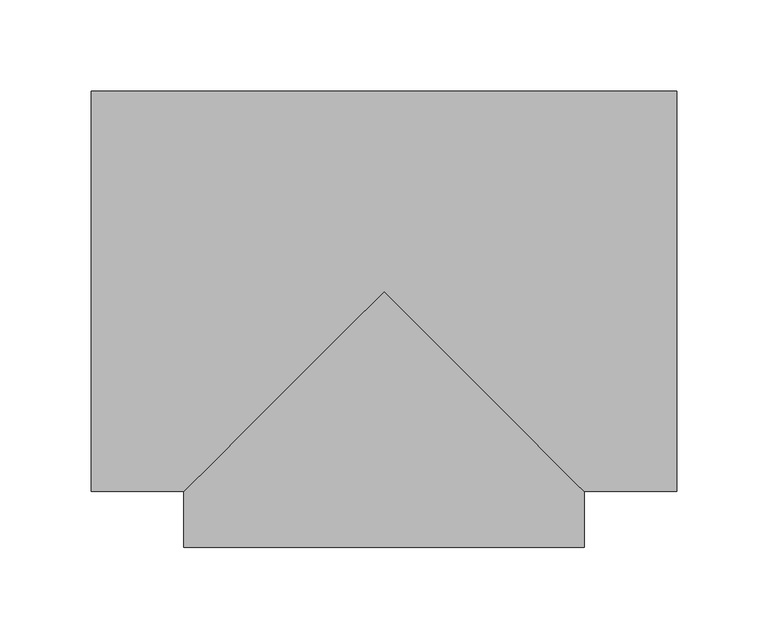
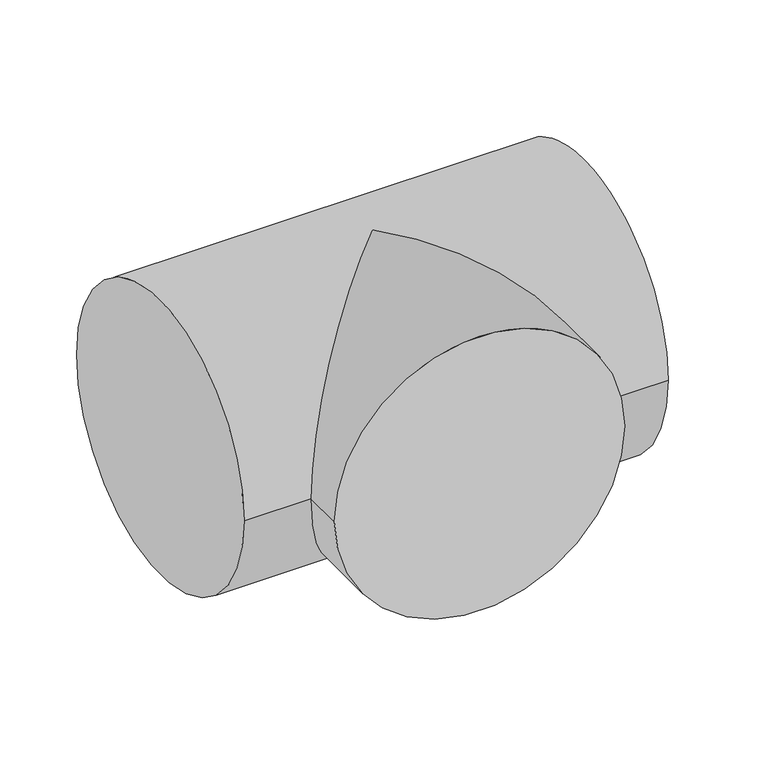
"""IFC4 building model written with IfcOpenShell, lengths in millimetres: pipe fitting geometry, ADSK_ДетальСтальнаяСварная_Тройник_ГОСТ17376-2001 : Исполнение 2."""

from ifc_helpers import new_model, si_unit, frame, origin, place, context, project, spatial, circle_curve, ellipse_curve, source, transform, mapped, element, save
from ifc_brep_helpers import plane_surface, cylinder_surface, advanced_brep


def pipe_fitting_e4bd74ec(model_context):
    return source(origin(), model_context, "Body", "AdvancedBrep", [
        advanced_brep(
        [(-160.0, -109.5, 0.0), (-160.0, 109.5, 0.0), (160.0, -109.5, 0.0), (160.0, 109.5, 0.0), (-109.5, -109.5, 0.0), (0.0, 0.0, 109.5), (109.5, -109.5, 0.0), (0.0, 0.0, -109.5), (-109.5, -140.0, 0.0), (109.5, -140.0, 0.0)],
        [
            (0, 1, circle_curve(frame((-160.0, 0.0, 0.0), z_axis=(-1.0, 0.0, 0.0), x_axis=(0.0, 1.0, 0.0)), 109.5)),
            (1, 0, circle_curve(frame((-160.0, 0.0, 0.0), z_axis=(-1.0, 0.0, 0.0), x_axis=(0.0, 1.0, 0.0)), 109.5)),
            (2, 3, circle_curve(frame((160.0, 0.0, 0.0), z_axis=(1.0, 0.0, 0.0), x_axis=(0.0, 1.0, 0.0)), 109.5)),
            (3, 2, circle_curve(frame((160.0, 0.0, 0.0), z_axis=(1.0, 0.0, 0.0), x_axis=(0.0, 1.0, 0.0)), 109.5)),
            (0, 4),
            (4, 5, ellipse_curve(frame((0.0, 0.0, 0.0), z_axis=(-0.707106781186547, 0.7071067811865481, 0.0), x_axis=(-0.707106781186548, -0.707106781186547, 0.0)), 154.8563851, 109.5)),
            (5, 6, ellipse_curve(frame((0.0, 0.0, 0.0), z_axis=(0.707106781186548, 0.7071067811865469, 0.0), x_axis=(-0.707106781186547, 0.707106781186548, 0.0)), 154.8563851, 109.5)),
            (6, 2),
            (3, 1),
            (6, 7, ellipse_curve(frame((0.0, 0.0, 0.0), z_axis=(0.707106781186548, 0.7071067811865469, 0.0), x_axis=(-0.707106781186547, 0.707106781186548, 0.0)), 154.8563851, 109.5)),
            (7, 4, ellipse_curve(frame((0.0, 0.0, 0.0), z_axis=(-0.707106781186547, 0.7071067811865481, 0.0), x_axis=(-0.707106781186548, -0.707106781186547, 0.0)), 154.8563851, 109.5)),
            (8, 9, circle_curve(frame((0.0, -140.0, 0.0), z_axis=(0.0, -1.0, 0.0), x_axis=(1.0, 0.0, 0.0)), 109.5)),
            (9, 8, circle_curve(frame((0.0, -140.0, 0.0), z_axis=(0.0, -1.0, 0.0), x_axis=(1.0, 0.0, 0.0)), 109.5)),
            (9, 6),
            (4, 8),
        ],
        [
            plane_surface(frame((-160.0, 0.0, 0.0), z_axis=(-1.0, 0.0, 0.0), x_axis=(0.0, 0.0, 1.0))),
            plane_surface(frame((160.0, 0.0, 0.0), z_axis=(1.0, 0.0, 0.0), x_axis=(0.0, 0.0, 1.0))),
            cylinder_surface(frame((-160.0, 0.0, 0.0), z_axis=(-1.0, 0.0, 0.0), x_axis=(0.0, 1.0, 0.0)), 109.5),
            plane_surface(frame((0.0, -140.0, 0.0), z_axis=(0.0, -1.0, 0.0), x_axis=(0.0, 0.0, 1.0))),
            cylinder_surface(frame((0.0, 0.0, 0.0), z_axis=(0.0, 1.0, 0.0), x_axis=(1.0, 0.0, 0.0)), 109.5),
        ],
        [
            (0, [[1, 2]]),
            (1, [[3, 4]]),
            (2, [[-1, 5, 6, 7, 8, -4, 9]]),
            (2, [[-2, -9, -3, -8, 10, 11, -5]]),
            (3, [[12, 13]]),
            (4, [[-13, 14, -7, -6, 15]]),
            (4, [[-12, -15, -11, -10, -14]]),
        ],
    ),
    ])


if __name__ == "__main__":
    model = new_model("IFC4")
    model_context = context("Model", 3, world=origin())
    ifc_project = project(units=[si_unit("LENGTHUNIT", "METRE", prefix="MILLI")], contexts=[model_context])
    site = spatial("IfcSite", under=ifc_project)
    building = spatial("IfcBuilding", under=site)
    placement = place(None, origin())
    pipe_fitting_shape = pipe_fitting_e4bd74ec(model_context)
    element("IfcPipeFitting", 1, ObjectType="ADSK_ДетальСтальнаяСварная_Тройник_ГОСТ17376-2001 : Исполнение 2", at=placement, inside=building, context=model_context, shape_type="MappedRepresentation", body=[
        mapped(pipe_fitting_shape, transform((0.0, 0.0, 0.0), x_axis=(1.0, 0.0, 0.0), y_axis=(0.0, 1.0, 0.0), z_axis=(0.0, 0.0, 1.0))),
    ])
    save(model, "model.ifc")
